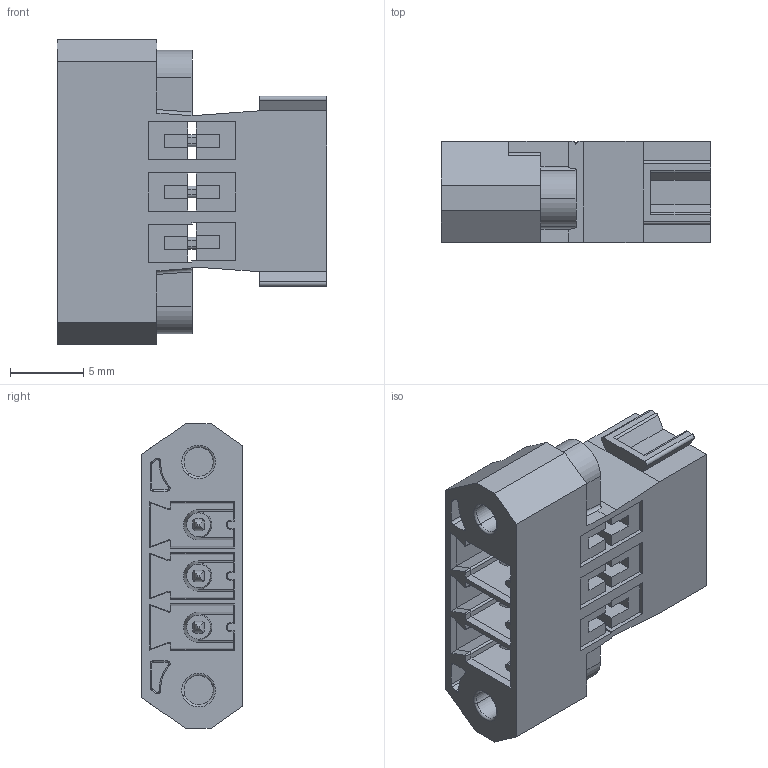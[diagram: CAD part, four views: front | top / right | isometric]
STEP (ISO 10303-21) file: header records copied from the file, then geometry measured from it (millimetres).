
FILE_DESCRIPTION (( 'STEP AP203' ), '1' );
FILE_NAME ('110-M-345-03.STEP', '2019-01-25T01:04:29', ( '' ), ( '' ), 'SwSTEP 2.0', 'SolidWorks 2016', '' );
FILE_SCHEMA (( 'CONFIG_CONTROL_DESIGN' ));
Length unit declared in the file: millimetre
Products named in the file (1): 110-M-345-03
Bounding box: 18.4 x 6.9 x 20.8 mm (x, y, z)
Volume: 1010 mm3; surface area: 2482.4 mm2
Topology: 1 solids, 3 shells, 609 faces, 1621 edges, 1033 vertices
Faces by surface type: plane 373, cylinder 180, cone 40, torus 16
Entity records: 19471 total; most frequent: CARTESIAN_POINT 4585, ORIENTED_EDGE 3242, DIRECTION 2825, EDGE_CURVE 1621, LINE 1129, VECTOR 1129, VERTEX_POINT 1033, AXIS2_PLACEMENT_3D 848
